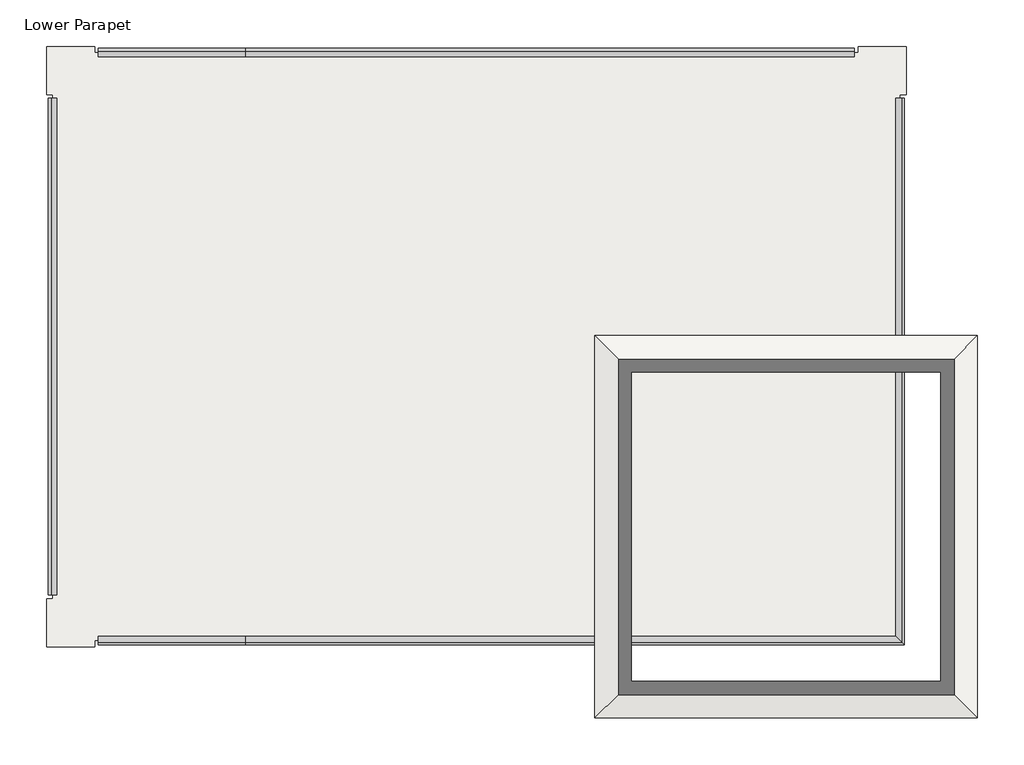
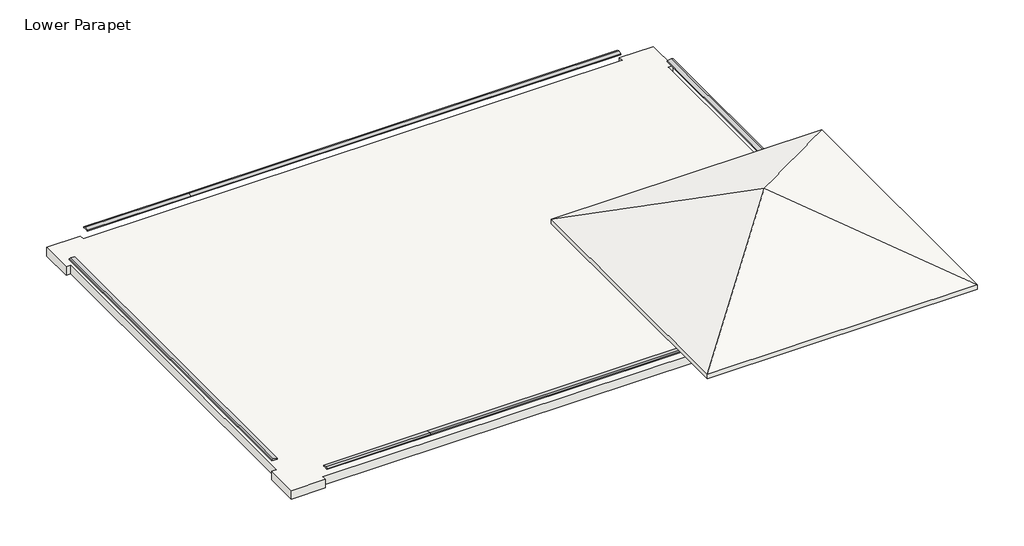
# One storey: 6 proxies, 2 roofs.
"""IFC4 building model written with IfcOpenShell, lengths in millimetres."""

from ifc_helpers import new_model, si_unit, frame, origin, place, context, project, spatial, polyline, outline, extrude, faceted_brep, element, save

model = new_model("IFC4")

# Units and contexts
model_context = context("Model", 3, world=origin())
ifc_project = project(units=[si_unit("LENGTHUNIT", "METRE", prefix="MILLI")], contexts=[model_context])

# Site, building, storey
site = spatial("IfcSite", under=ifc_project)
building = spatial("IfcBuilding", under=site)
storey = spatial("IfcBuildingStorey", under=building, Name="Lower Parapet", Elevation=7620.0)

# Proxies
placement = place(None, origin())
element("IfcBuildingElementProxy", 1, Name="Wall Sweeps", at=placement, inside=storey, context=model_context, shape_type="Brep", body=[
    faceted_brep([(-20031.8727721, 13964.8686943, 7683.5), (-20031.8727721, 14244.2686943, 7721.6), (-20031.8727721, 14371.2686943, 7683.5), (-20031.8727721, 14371.2686943, 7620.0), (-20031.8727721, 14345.8686943, 7620.0), (-20031.8727721, 13993.4436943, 7620.0), (-20031.8727721, 13964.8686943, 7620.0), (-12953.2102721, 13964.8686943, 7683.5), (-12953.2102721, 13964.8686943, 7620.0), (-12953.2102721, 13993.4436943, 7620.0), (-12953.2102721, 14345.8686943, 7620.0), (-12953.2102721, 14371.2686943, 7620.0), (-12953.2102721, 14371.2686943, 7683.5), (-12953.2102721, 14244.2686943, 7721.6)], [[[0, 1, 2, 3, 4, 5, 6]], [[7, 8, 9, 10, 11, 12, 13]], [[1, 0, 7, 13]], [[2, 1, 13, 12]], [[3, 2, 12, 11]], [[6, 5, 4, 3, 11, 10, 9, 8]], [[0, 6, 8, 7]]]),
])
element("IfcBuildingElementProxy", 2, Name="Wall Sweeps", at=placement, inside=storey, context=model_context, shape_type="Brep", body=[
    faceted_brep([(18449.1272279, 11958.2686943, 7683.5), (18728.5272279, 11958.2686943, 7721.6), (18855.5272279, 11958.2686943, 7683.5), (18855.5272279, 11958.2686943, 7620.0), (18830.1272279, 11958.2686943, 7620.0), (18477.7022279, 11958.2686943, 7620.0), (18449.1272279, 11958.2686943, 7620.0), (18449.1272279, -14025.9313057, 7683.5), (18449.1272279, -14025.9313057, 7620.0), (18855.5272279, -14432.3313057, 7620.0), (18855.5272279, -14432.3313057, 7683.5), (18728.5272279, -14305.3313057, 7721.6)], [[[0, 1, 2, 3, 4, 5, 6]], [[7, 8, 9, 10, 11]], [[1, 0, 7, 11]], [[2, 1, 11, 10]], [[3, 2, 10, 9]], [[6, 5, 4, 3, 9, 8]], [[0, 6, 8, 7]]]),
])
element("IfcBuildingElementProxy", 3, Name="Wall Sweeps", at=placement, inside=storey, context=model_context, shape_type="Brep", body=[
    faceted_brep([(18449.1272279, -14025.9313057, 7683.5), (18728.5272279, -14305.3313057, 7721.6), (18855.5272279, -14432.3313057, 7683.5), (18855.5272279, -14432.3313057, 7620.0), (18449.1272279, -14025.9313057, 7620.0), (-12953.2102721, -14025.9313057, 7683.5), (-12953.2102721, -14025.9313057, 7620.0), (-12953.2102721, -14054.5063057, 7620.0), (-12953.2102721, -14406.9313057, 7620.0), (-12953.2102721, -14432.3313057, 7620.0), (-12953.2102721, -14432.3313057, 7683.5), (-12953.2102721, -14305.3313057, 7721.6)], [[[0, 1, 2, 3, 4]], [[5, 6, 7, 8, 9, 10, 11]], [[1, 0, 5, 11]], [[2, 1, 11, 10]], [[3, 2, 10, 9]], [[4, 3, 9, 8, 7, 6]], [[0, 4, 6, 5]]]),
])
element("IfcBuildingElementProxy", 4, Name="Wall Sweeps", at=placement, inside=storey, context=model_context, shape_type="Brep", body=[
    faceted_brep([(-12953.2102721, 13964.8686943, 7683.5), (-12953.2102721, 14244.2686943, 7721.6), (-12953.2102721, 14371.2686943, 7683.5), (-12953.2102721, 14371.2686943, 7620.0), (-12953.2102721, 14345.8686943, 7620.0), (-12953.2102721, 13993.4436943, 7620.0), (-12953.2102721, 13964.8686943, 7620.0), (16442.5272279, 13964.8686943, 7683.5), (16442.5272279, 13964.8686943, 7620.0), (16442.5272279, 13993.4436943, 7620.0), (16442.5272279, 14345.8686943, 7620.0), (16442.5272279, 14371.2686943, 7620.0), (16442.5272279, 14371.2686943, 7683.5), (16442.5272279, 14244.2686943, 7721.6)], [[[0, 1, 2, 3, 4, 5, 6]], [[7, 8, 9, 10, 11, 12, 13]], [[1, 0, 7, 13]], [[2, 1, 13, 12]], [[3, 2, 12, 11]], [[6, 5, 4, 3, 11, 10, 9, 8]], [[0, 6, 8, 7]]]),
])
element("IfcBuildingElementProxy", 5, Name="Wall Sweeps", at=placement, inside=storey, context=model_context, shape_type="Brep", body=[
    faceted_brep([(-12953.2102721, -14025.9313057, 7683.5), (-12953.2102721, -14305.3313057, 7721.6), (-12953.2102721, -14432.3313057, 7683.5), (-12953.2102721, -14432.3313057, 7620.0), (-12953.2102721, -14406.9313057, 7620.0), (-12953.2102721, -14054.5063057, 7620.0), (-12953.2102721, -14025.9313057, 7620.0), (-20031.8727721, -14025.9313057, 7683.5), (-20031.8727721, -14025.9313057, 7620.0), (-20031.8727721, -14054.5063057, 7620.0), (-20031.8727721, -14406.9313057, 7620.0), (-20031.8727721, -14432.3313057, 7620.0), (-20031.8727721, -14432.3313057, 7683.5), (-20031.8727721, -14305.3313057, 7721.6)], [[[0, 1, 2, 3, 4, 5, 6]], [[7, 8, 9, 10, 11, 12, 13]], [[1, 0, 7, 13]], [[2, 1, 13, 12]], [[3, 2, 12, 11]], [[6, 5, 4, 3, 11, 10, 9, 8]], [[0, 6, 8, 7]]]),
])
element("IfcBuildingElementProxy", 6, Name="Wall Sweeps", at=placement, inside=storey, context=model_context, shape_type="Brep", body=[
    faceted_brep([(-22038.4727721, -12019.3313057, 7683.5), (-22317.8727721, -12019.3313057, 7721.6), (-22444.8727721, -12019.3313057, 7683.5), (-22444.8727721, -12019.3313057, 7620.0), (-22419.4727721, -12019.3313057, 7620.0), (-22067.0477721, -12019.3313057, 7620.0), (-22038.4727721, -12019.3313057, 7620.0), (-22038.4727721, 11958.2686943, 7683.5), (-22038.4727721, 11958.2686943, 7620.0), (-22067.0477721, 11958.2686943, 7620.0), (-22419.4727721, 11958.2686943, 7620.0), (-22444.8727721, 11958.2686943, 7620.0), (-22444.8727721, 11958.2686943, 7683.5), (-22317.8727721, 11958.2686943, 7721.6)], [[[0, 1, 2, 3, 4, 5, 6]], [[7, 8, 9, 10, 11, 12, 13]], [[1, 0, 7, 13]], [[2, 1, 13, 12]], [[3, 2, 12, 11]], [[6, 5, 4, 3, 11, 10, 9, 8]], [[0, 6, 8, 7]]]),
])

# Roofs
element("IfcRoof", 7, ObjectType="Bar Joist Flat Roof", at=placement, inside=storey, context=model_context, shape_type="SweptSolid", body=[
    extrude(outline(polyline([(18642.8022279, 12145.5936943), (18642.8022279, -14219.6063057), (-20219.1977721, -14219.6063057), (-20219.1977721, -14524.4063057), (-22536.9477721, -14524.4063057), (-22536.9477721, -12206.6563057), (-22232.1477721, -12206.6563057), (-22232.1477721, 12145.5936943), (-22536.9477721, 12145.5936943), (-22536.9477721, 14463.3436943), (-20219.1977721, 14463.3436943), (-20219.1977721, 14158.5436943), (16629.8522279, 14158.5436943), (16629.8522279, 14463.3436943), (18947.6022279, 14463.3436943), (18947.6022279, 12145.5936943), (18642.8022279, 12145.5936943)])), frame((0.0, 0.0, 6400.8), z_axis=(0.0, 0.0, 1.0), x_axis=(1.0, 0.0, 0.0)), (0.0, 0.0, 1.0), 615.95),
])
element("IfcRoof", 8, ObjectType="Canopy Roof", at=placement, inside=storey, context=model_context, shape_type="Brep", body=[
    faceted_brep([(13154.0209779, -8730.8250557, 12540.853125), (22386.1272279, 501.2811943, 7924.8), (22386.1272279, -17962.9313057, 7924.8), (3921.9147279, 501.2811943, 7924.8), (3921.9147279, -17962.9313057, 7924.8), (22386.1272279, 501.2811943, 8258.4772439), (13154.0209779, -8730.8250557, 12874.5303689), (22386.1272279, -17962.9313057, 8258.4772439), (3921.9147279, 501.2811943, 8258.4772439), (3921.9147279, -17962.9313057, 8258.4772439)], [[[0, 1, 2]], [[3, 0, 4]], [[1, 0, 3]], [[4, 0, 2]], [[5, 6, 7]], [[8, 9, 6]], [[5, 8, 6]], [[9, 7, 6]], [[3, 8, 5, 1]], [[4, 9, 8, 3]], [[2, 7, 9, 4]], [[1, 5, 7, 2]]]),
])

save(model, "model.ifc")
